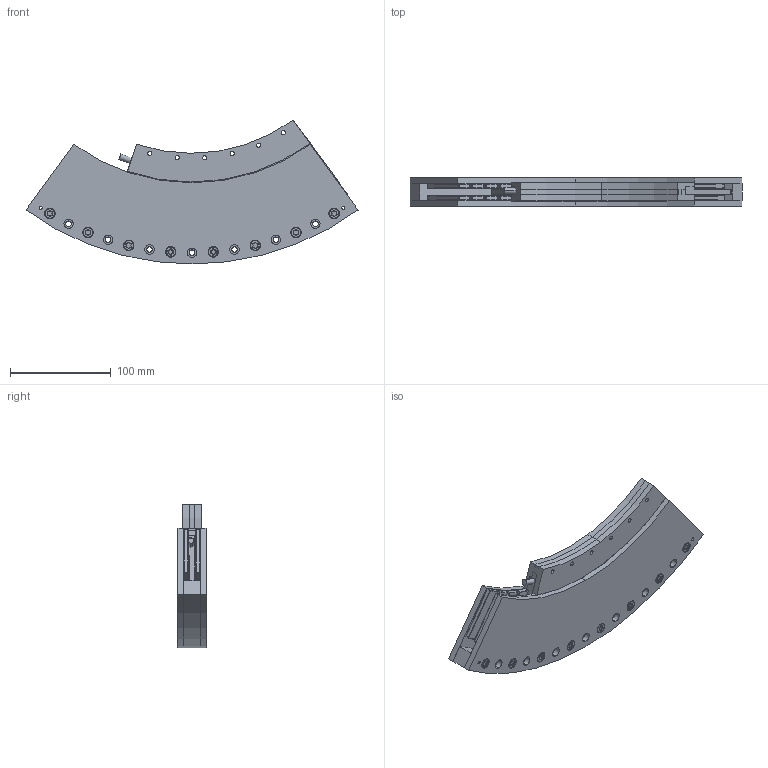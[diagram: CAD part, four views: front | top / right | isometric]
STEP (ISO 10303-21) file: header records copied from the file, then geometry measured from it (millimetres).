
FILE_DESCRIPTION (( 'STEP AP203' ), '1' );
FILE_NAME ('IL91 curved MY and CU 72 deg.STEP', '2021-03-02T10:12:44', ( '' ), ( '' ), 'SwSTEP 2.0', 'SolidWorks 2021', '' );
FILE_SCHEMA (( 'CONFIG_CONTROL_DESIGN' ));
Length unit declared in the file: inch
Products named in the file (3): IL91 curved MY and CU 72 deg; IL109+150 screw; MPY 91-72deg ILC91-9 3D
Assembly tree (17 placements, depth 2):
  IL91 curved MY and CU 72 deg
    MPY 91-72deg ILC91-9 3D
    IL109+150 screw  x16
Bounding box: 329.16 x 28 x 142.72 mm (x, y, z)
Volume: 705401.6 mm3; surface area: 308324.1 mm2
Topology: 64 solids, 64 shells, 1918 faces, 4713 edges, 2683 vertices
Faces by surface type: cylinder 976, plane 556, sphere 256, torus 66, cone 64
Entity records: 38600 total; most frequent: DIRECTION 7439, CARTESIAN_POINT 6291, ORIENTED_EDGE 6064, AXIS2_PLACEMENT_3D 3036, EDGE_CURVE 3032, VERTEX_POINT 1753, CIRCLE 1638, EDGE_LOOP 1511
